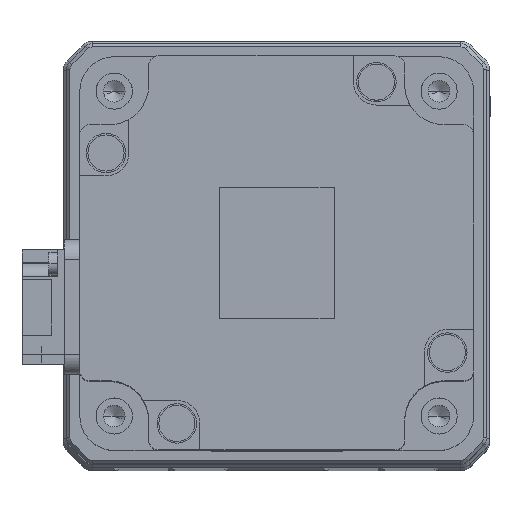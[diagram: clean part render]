
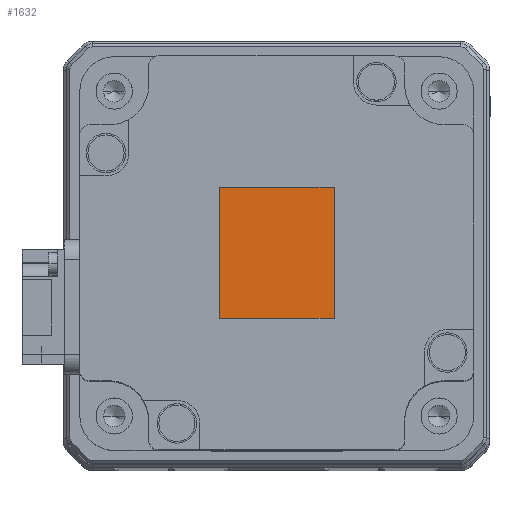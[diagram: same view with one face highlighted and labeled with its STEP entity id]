
A CAD part, top view. The second image highlights one B-rep face of the part: STEP entity #1632.
In plain terms, the highlighted planar face has unit normal (0, 0, 1) as drawn and (0, 0, -1) by its records, which use the part's own axes.
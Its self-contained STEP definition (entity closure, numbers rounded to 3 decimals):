
#1632 = ADVANCED_FACE ( 'NONE', ( #17356 ), #24372, .T. ) ;
#2063 = EDGE_CURVE ( 'NONE', #20716, #10103, #22577, .T. ) ;
#2075 = CARTESIAN_POINT ( 'NONE',  ( 10., 8.75, -80.1 ) ) ;
#2858 = VECTOR ( 'NONE', #22151, 1000. ) ;
#3313 = CARTESIAN_POINT ( 'NONE',  ( 10., -8.75, -80.1 ) ) ;
#5913 = DIRECTION ( 'NONE',  ( -1., 0., 0. ) ) ;
#6344 = CARTESIAN_POINT ( 'NONE',  ( -10., 8.75, -80.1 ) ) ;
#8589 = CARTESIAN_POINT ( 'NONE',  ( -10., -8.75, -80.1 ) ) ;
#8834 = CARTESIAN_POINT ( 'NONE',  ( 10., -8.75, -80.1 ) ) ;
#9038 = AXIS2_PLACEMENT_3D ( 'NONE', #8834, #11470, #29610 ) ;
#9763 = LINE ( 'NONE', #22046, #2858 ) ;
#9996 = EDGE_CURVE ( 'NONE', #19064, #20716, #29770, .T. ) ;
#10103 = VERTEX_POINT ( 'NONE', #6344 ) ;
#10248 = ORIENTED_EDGE ( 'NONE', *, *, #29069, .T. ) ;
#11470 = DIRECTION ( 'NONE',  ( 0., 0., -1. ) ) ;
#12808 = DIRECTION ( 'NONE',  ( 0., -1., 0. ) ) ;
#15163 = VECTOR ( 'NONE', #5913, 1000. ) ;
#15687 = VECTOR ( 'NONE', #28787, 1000. ) ;
#16096 = LINE ( 'NONE', #28336, #29911 ) ;
#17356 = FACE_OUTER_BOUND ( 'NONE', #21041, .T. ) ;
#19064 = VERTEX_POINT ( 'NONE', #24275 ) ;
#20716 = VERTEX_POINT ( 'NONE', #8589 ) ;
#21041 = EDGE_LOOP ( 'NONE', ( #23067, #23039, #10248, #26336 ) ) ;
#22046 = CARTESIAN_POINT ( 'NONE',  ( 10., 8.75, -80.1 ) ) ;
#22151 = DIRECTION ( 'NONE',  ( 1., 0., 0. ) ) ;
#22577 = LINE ( 'NONE', #23575, #15687 ) ;
#23039 = ORIENTED_EDGE ( 'NONE', *, *, #27086, .T. ) ;
#23067 = ORIENTED_EDGE ( 'NONE', *, *, #2063, .T. ) ;
#23575 = CARTESIAN_POINT ( 'NONE',  ( -10., 8.75, -80.1 ) ) ;
#24275 = CARTESIAN_POINT ( 'NONE',  ( 10., -8.75, -80.1 ) ) ;
#24372 = PLANE ( 'NONE',  #9038 ) ;
#24999 = VERTEX_POINT ( 'NONE', #2075 ) ;
#26336 = ORIENTED_EDGE ( 'NONE', *, *, #9996, .T. ) ;
#27086 = EDGE_CURVE ( 'NONE', #10103, #24999, #9763, .T. ) ;
#28336 = CARTESIAN_POINT ( 'NONE',  ( 10., 8.75, -80.1 ) ) ;
#28787 = DIRECTION ( 'NONE',  ( 0., 1., 0. ) ) ;
#29069 = EDGE_CURVE ( 'NONE', #24999, #19064, #16096, .T. ) ;
#29610 = DIRECTION ( 'NONE',  ( -1., 0., 0. ) ) ;
#29770 = LINE ( 'NONE', #3313, #15163 ) ;
#29911 = VECTOR ( 'NONE', #12808, 1000. ) ;
